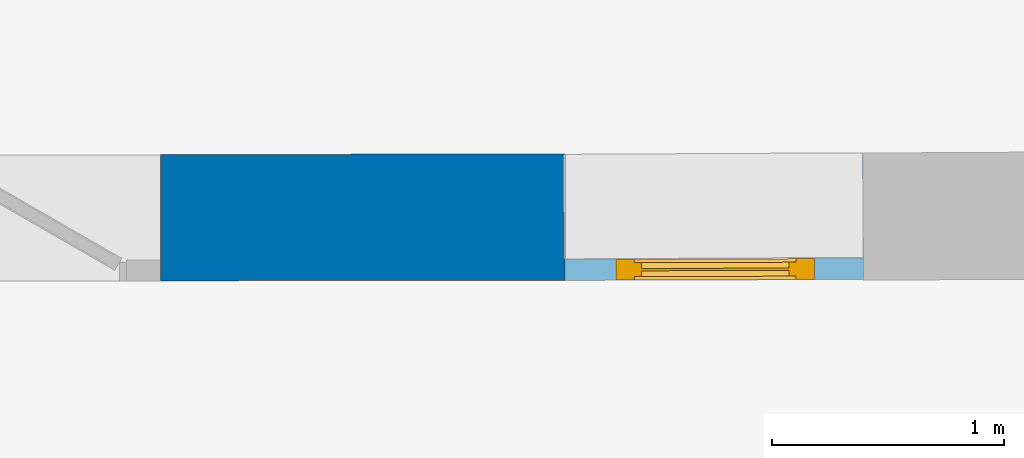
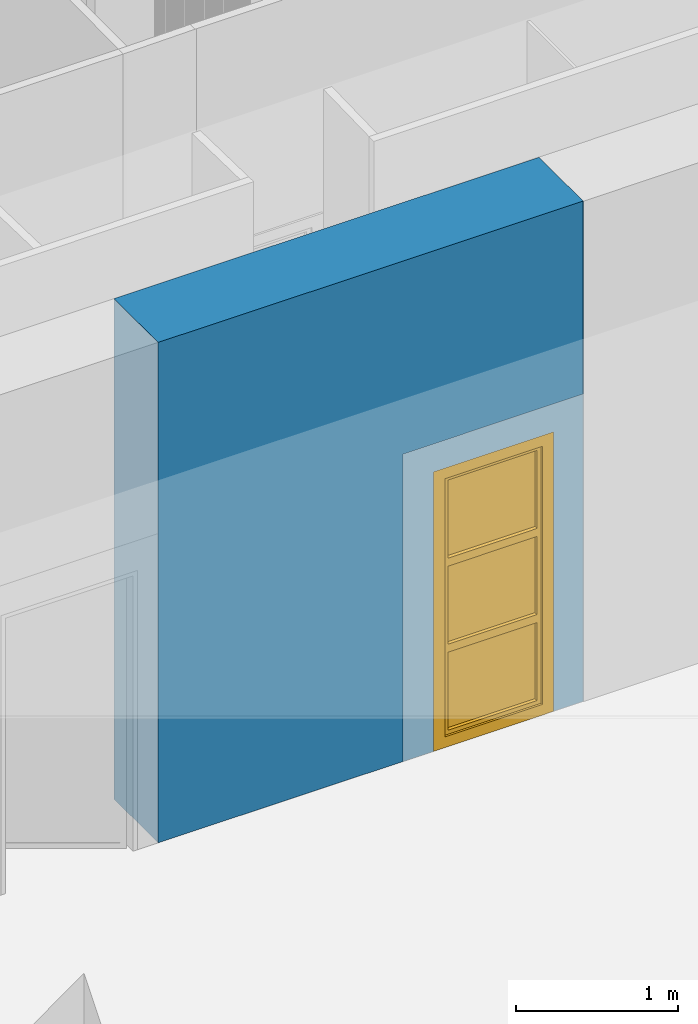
# One storey, part 34 of 66: 1 wall, 1 window, 1 opening, plus 1 element that does not belong to this part.
"""IFC2X3 building model written with IfcOpenShell, lengths in centimetres."""

import ifcopenshell
import ifcopenshell.guid

model = None  # the IFC model being written
_history = None  # IfcOwnerHistory: only IFC2X3 demands one
_inside = {}  # id of a spatial element -> (the spatial element, [elements in it])
_under = {}  # id of a project, library or spatial element -> (it, [spatial elements below it])
_declared = {}  # id of a project -> (the project, [libraries it declares])
_typed = {}  # id of a type object -> (the type object, [elements of that type])
_made_of = {}  # id of a material, layer set ... -> (it, [elements and type objects made of it])


def new_model(schema):
    """Start an empty IFC model of exactly this schema.

    Asked for "IFC4X3", IfcOpenShell would pick the latest addendum, in which some entities
    have other attributes; the version numbers below select the first issue.
    IFC2X3 requires an IfcOwnerHistory on every rooted entity: one is made here for all.
    """
    global model, _history
    if schema == "IFC4X3":
        model = ifcopenshell.file(schema_version=(4, 3, 0, 0))
    else:
        model = ifcopenshell.file(schema=schema)
    _inside.clear()
    _under.clear()
    _declared.clear()
    _typed.clear()
    _made_of.clear()
    _history = None
    if model.schema == "IFC2X3":
        org = make("IfcOrganization", Name="unknown")
        user = make(
            "IfcPersonAndOrganization",
            ThePerson=make("IfcPerson", FamilyName="unknown"),
            TheOrganization=org,
        )
        app = make(
            "IfcApplication",
            ApplicationDeveloper=org,
            Version="unknown",
            ApplicationFullName="unknown",
            ApplicationIdentifier="unknown",
        )
        _history = make(
            "IfcOwnerHistory",
            OwningUser=user,
            OwningApplication=app,
            ChangeAction="ADDED",
            CreationDate=0,
        )
    return model


def make(cls, **values):
    """One entity of the class cls with the attributes given. An attribute that is None is left unset."""
    return model.create_entity(
        cls, **{name: value for name, value in values.items() if value is not None}
    )


def entity(cls, *values):
    """Any entity or typed value of the class cls, its attributes in the order of the schema. None: left unset."""
    e = model.create_entity(cls)
    for i, value in enumerate(values):
        if value is not None:
            e[i] = value
    return e


def rooted(cls, **values):
    """An entity with a GlobalId (a new one), such as an element, a storey or a relation."""
    return make(cls, GlobalId=ifcopenshell.guid.new(), OwnerHistory=_history, **values)


def si_unit(unit_type, name, prefix=None):
    """IfcSIUnit, for example si_unit("LENGTHUNIT", "METRE", prefix="MILLI")."""
    return make("IfcSIUnit", UnitType=unit_type, Prefix=prefix, Name=name)


def converted_unit(unit_type, name, factor, base, dimensions=None, offset=None):
    """IfcConversionBasedUnit, such as the inch: factor (a typed value) times the base unit."""
    return make(
        "IfcConversionBasedUnit"
        if offset is None
        else "IfcConversionBasedUnitWithOffset",
        ConversionOffset=offset,
        Dimensions=None
        if dimensions is None
        else entity("IfcDimensionalExponents", *dimensions),
        UnitType=unit_type,
        Name=name,
        ConversionFactor=make(
            "IfcMeasureWithUnit", ValueComponent=factor, UnitComponent=base
        ),
    )


def assignment(units):
    """IfcUnitAssignment: the units of a project."""
    return None if units is None else make("IfcUnitAssignment", Units=units)


def point(xyz):
    """IfcCartesianPoint."""
    return None if xyz is None else make("IfcCartesianPoint", Coordinates=xyz)


def direction(xyz):
    """IfcDirection."""
    return None if xyz is None else make("IfcDirection", DirectionRatios=xyz)


def frame(location, z_axis=None, x_axis=None):
    """IfcAxis2Placement3D, a coordinate frame: its origin and axes. An axis left out is left unset."""
    return make(
        "IfcAxis2Placement3D",
        Location=point(location),
        Axis=direction(z_axis),
        RefDirection=direction(x_axis),
    )


def origin():
    """The frame at (0, 0, 0) with its axes left unset."""
    return frame((0.0, 0.0, 0.0))


def origin_with_axes():
    """The frame at (0, 0, 0) with the z axis (0, 0, 1) and the x axis (1, 0, 0) written out."""
    return frame((0.0, 0.0, 0.0), z_axis=(0.0, 0.0, 1.0), x_axis=(1.0, 0.0, 0.0))


def place(relative_to, where):
    """IfcLocalPlacement: puts the frame where relative to a parent placement (None: the world)."""
    return make(
        "IfcLocalPlacement", PlacementRelTo=relative_to, RelativePlacement=where
    )


def context(
    kind, dimensions, precision=None, world=None, true_north=None, identifier=None
):
    """IfcGeometricRepresentationContext, for example the 3D "Model" context."""
    return make(
        "IfcGeometricRepresentationContext",
        ContextIdentifier=identifier,
        ContextType=kind,
        CoordinateSpaceDimension=dimensions,
        Precision=precision,
        WorldCoordinateSystem=world,
        TrueNorth=true_north,
    )


def subcontext(parent, identifier, kind, view, scale=None):
    """IfcGeometricRepresentationSubContext, for example "Body" below "Model"."""
    return make(
        "IfcGeometricRepresentationSubContext",
        ContextIdentifier=identifier,
        ContextType=kind,
        ParentContext=parent,
        TargetScale=scale,
        TargetView=view,
    )


def project(units=None, contexts=None):
    """IfcProject with its units and contexts."""
    return rooted(
        "IfcProject",
        Name="project",
        RepresentationContexts=contexts,
        UnitsInContext=assignment(units),
    )


def spatial(cls, under=None, at=None, **own):
    """A site, building, storey or space (cls), placed at a placement, below another one or the project."""
    s = rooted(cls, ObjectPlacement=at, **own)
    if under is not None:
        _under.setdefault(under.id(), (under, []))[1].append(s)
    return s


def polyline(points):
    """IfcPolyline through the points."""
    return make("IfcPolyline", Points=[point(p) for p in points])


def outline(outer, holes=None, kind="AREA"):
    """IfcArbitraryClosedProfileDef: a profile drawn as a closed curve; with holes, ...WithVoids."""
    if holes is None:
        return make("IfcArbitraryClosedProfileDef", ProfileType=kind, OuterCurve=outer)
    return make(
        "IfcArbitraryProfileDefWithVoids",
        ProfileType=kind,
        OuterCurve=outer,
        InnerCurves=holes,
    )


def extrude(swept, where, along, depth):
    """IfcExtrudedAreaSolid: the profile swept, set in the frame where, extruded along a direction by depth."""
    return make(
        "IfcExtrudedAreaSolid",
        SweptArea=swept,
        Position=where,
        ExtrudedDirection=direction(along),
        Depth=depth,
    )


def faces_of(points, faces, orient=None, outer=None):
    """IfcFace entities. A face is a list of loops; a loop is a list of indices into points, from 0.

    orient and outer hold one flag for each loop. By default every Orientation is true, the
    first loop of a face is its IfcFaceOuterBound and the others are IfcFaceBound.
    """
    made = []
    for i, loops in enumerate(faces):
        bounds = []
        for j, loop in enumerate(loops):
            is_outer = j == 0 if outer is None else outer[i][j]
            bounds.append(
                make(
                    "IfcFaceOuterBound" if is_outer else "IfcFaceBound",
                    Bound=make("IfcPolyLoop", Polygon=[points[k] for k in loop]),
                    Orientation=True if orient is None else orient[i][j],
                )
            )
        made.append(make("IfcFace", Bounds=bounds))
    return made


def faceted_brep(points, faces, orient=None, outer=None, voids=None):
    """IfcFacetedBrep: a solid bounded by flat faces; with voids (closed shells), ...WithVoids."""
    shared = [point(p) for p in points]
    hull = make("IfcClosedShell", CfsFaces=faces_of(shared, faces, orient, outer))
    if voids is None:
        return make("IfcFacetedBrep", Outer=hull)
    return make(
        "IfcFacetedBrepWithVoids",
        Outer=hull,
        Voids=[
            make(cls, CfsFaces=faces_of(shared, fs, o, b)) for cls, fs, o, b in voids
        ],
    )


def shape(context_of_items, identifier, shape_type, items):
    """IfcShapeRepresentation: the items that make up one representation, for example the "Body"."""
    return make(
        "IfcShapeRepresentation",
        ContextOfItems=context_of_items,
        RepresentationIdentifier=identifier,
        RepresentationType=shape_type,
        Items=items,
    )


def source(mapping_origin, context_of_items, identifier, shape_type, items):
    """IfcRepresentationMap: a shape defined once, which mapped items show again and again."""
    return make(
        "IfcRepresentationMap",
        MappingOrigin=mapping_origin,
        MappedRepresentation=shape(context_of_items, identifier, shape_type, items),
    )


def transform(
    local_origin,
    x_axis=None,
    y_axis=None,
    z_axis=None,
    scale=None,
    scale2=None,
    scale3=None,
    uniform=True,
):
    """IfcCartesianTransformationOperator3D, or its non-uniform kind. x_axis, y_axis, z_axis: its Axis1, 2, 3."""
    if uniform:
        return make(
            "IfcCartesianTransformationOperator3D",
            Axis1=direction(x_axis),
            Axis2=direction(y_axis),
            LocalOrigin=point(local_origin),
            Scale=scale,
            Axis3=direction(z_axis),
        )
    return make(
        "IfcCartesianTransformationOperator3DnonUniform",
        Axis1=direction(x_axis),
        Axis2=direction(y_axis),
        LocalOrigin=point(local_origin),
        Scale=scale,
        Axis3=direction(z_axis),
        Scale2=scale2,
        Scale3=scale3,
    )


def mapped(mapping_source, mapping_target):
    """IfcMappedItem: shows the shape of a source again, moved by a transform."""
    return make(
        "IfcMappedItem", MappingSource=mapping_source, MappingTarget=mapping_target
    )


def material(Name=None, Category=None):
    """IfcMaterial."""
    return make("IfcMaterial", Name=Name, Category=Category)


def material_list(materials):
    """IfcMaterialList."""
    return make("IfcMaterialList", Materials=materials)


def layer(
    of_material, thickness, ventilated=None, Name=None, Category=None, Priority=None
):
    """IfcMaterialLayer: one layer of a wall or slab, of a material (None: an air gap)."""
    return make(
        "IfcMaterialLayer",
        Material=of_material,
        LayerThickness=thickness,
        IsVentilated=ventilated,
        Name=Name,
        Category=Category,
        Priority=Priority,
    )


def layer_set(layers, Name=None):
    """IfcMaterialLayerSet."""
    return make("IfcMaterialLayerSet", MaterialLayers=layers, LayerSetName=Name)


def layer_usage(for_layer_set, set_direction, sense, offset, extent=None):
    """IfcMaterialLayerSetUsage: how a layer set lies in its element."""
    return make(
        "IfcMaterialLayerSetUsage",
        ForLayerSet=for_layer_set,
        LayerSetDirection=set_direction,
        DirectionSense=sense,
        OffsetFromReferenceLine=offset,
        ReferenceExtent=extent,
    )


def made_of(thing, what):
    """Note that an element or type object is made of a material, layer set ...; save() writes the relation."""
    if what is not None:
        _made_of.setdefault(what.id(), (what, []))[1].append(thing)
    return thing


def type_object(cls, material=None, **own):
    """A type object (cls), such as IfcWallType, which elements share."""
    return made_of(rooted(cls, **own), material)


def element(
    cls,
    number,
    at=None,
    inside=None,
    cuts=None,
    type_object=None,
    material=None,
    context=None,
    identifier="Body",
    shape_type=None,
    held_by="IfcProductDefinitionShape",
    body=None,
    shapes=None,
    **own,
):
    """One element of the class cls, such as IfcWall. Its Tag is "e" and its number.

    at: its placement. inside: the storey or other place that contains it. cuts: it is an
    opening in that element (IfcRelVoidsElement). A single representation is given by context,
    identifier, shape_type and body (its items); several are given by shapes. held_by: the class
    of the entity that holds the representations. save() writes the other relations.
    """
    e = rooted(cls, Tag="e%d" % number, ObjectPlacement=at, **own)
    if body is not None:
        shapes = [shape(context, identifier, shape_type, body)]
    if shapes is not None:
        e.Representation = make(held_by, Representations=shapes)
    if inside is not None:
        _inside.setdefault(inside.id(), (inside, []))[1].append(e)
    if cuts is not None:
        rooted(
            "IfcRelVoidsElement", RelatingBuildingElement=cuts, RelatedOpeningElement=e
        )
    if type_object is not None:
        _typed.setdefault(type_object.id(), (type_object, []))[1].append(e)
    return made_of(e, material)


def fill(opening, filler):
    """IfcRelFillsElement: the door or window that sits in an opening."""
    return rooted(
        "IfcRelFillsElement",
        RelatingOpeningElement=opening,
        RelatedBuildingElement=filler,
    )


def aggregate(whole, parts):
    """IfcRelAggregates: a whole, such as a stair, and the parts it consists of."""
    return rooted("IfcRelAggregates", RelatingObject=whole, RelatedObjects=parts)


def save(model, path):
    """Write the relations noted so far, then the file.

    IfcRelAggregates (storeys below a building ...), IfcRelContainedInSpatialStructure (elements
    in a storey), IfcRelDefinesByType, IfcRelAssociatesMaterial and IfcRelDeclares: one each for
    every whole, place, type object, material and project.
    """
    for whole, parts in _under.values():
        aggregate(whole, parts)
    for where, things in _inside.values():
        rooted(
            "IfcRelContainedInSpatialStructure",
            RelatedElements=things,
            RelatingStructure=where,
        )
    for kind, things in _typed.values():
        rooted("IfcRelDefinesByType", RelatedObjects=things, RelatingType=kind)
    for what, things in _made_of.values():
        rooted("IfcRelAssociatesMaterial", RelatedObjects=things, RelatingMaterial=what)
    for by, libraries in _declared.values():
        rooted("IfcRelDeclares", RelatingContext=by, RelatedDefinitions=libraries)
    model.write(path)


model = new_model("IFC2X3")

# Units and contexts
model_context = context("Model", 3, precision=0.0001, world=origin(), true_north=direction((0.225632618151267, 0.974212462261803, 0.0)))
body_context = subcontext(model_context, "Body", "Model", "MODEL_VIEW")
footprint_context = subcontext(model_context, "FootPrint", "Model", "MODEL_VIEW")
profile_context = subcontext(model_context, "Profile", "Model", "MODEL_VIEW")
ifc_project = project(units=[si_unit("LENGTHUNIT", "METRE", prefix="CENTI"), si_unit("AREAUNIT", "SQUARE_METRE", prefix="CENTI"), si_unit("VOLUMEUNIT", "CUBIC_METRE", prefix="CENTI"), converted_unit("PLANEANGLEUNIT", "DEGREE", entity("IfcRatioMeasure", 0.0174532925), si_unit("PLANEANGLEUNIT", "RADIAN"), dimensions=[0, 0, 0, 0, 0, 0, 0])], contexts=[model_context])

# Site, building, storey
site_placement = place(None, origin_with_axes())
site = spatial("IfcSite", under=ifc_project, at=site_placement, Name="Default Site", CompositionType="ELEMENT")
building_placement = place(site_placement, origin_with_axes())
building = spatial("IfcBuilding", under=site, at=building_placement, Name="Default Building", CompositionType="ELEMENT")
storey_placement = place(building_placement, frame((0.0, 0.0, 477.795358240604), z_axis=(0.0, 0.0, 1.0), x_axis=(1.0, 0.0, 0.0)))
storey = spatial("IfcBuildingStorey", under=building, at=storey_placement, Name="Niveau 1", CompositionType="ELEMENT", Elevation=477.795358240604)

# Wall
ifc_material_1 = material(Name="<aucun>")
ifc_layer_1 = layer(ifc_material_1, 54.0)
ifc_layer_set_1 = layer_set([ifc_layer_1], Name="default")
ifc_layer_usage_1 = layer_usage(ifc_layer_set_1, "AXIS2", "POSITIVE", -27.0)
wall_type_1 = type_object("IfcWallType", Name="default 540", PredefinedType="NOTDEFINED", material=ifc_layer_set_1)
wall_1_placement = place(storey_placement, frame((-449.151488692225, -68.8855963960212, 0.0128503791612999), z_axis=(0.0, 0.0, 1.0), x_axis=(0.999999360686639, 0.0011307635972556, 0.0)))
element("IfcWall", 1, at=wall_1_placement, inside=storey, type_object=wall_type_1, material=ifc_layer_usage_1, Name="Enveloppe 104994", context=body_context, shape_type="Brep", body=[
    faceted_brep([(174.180031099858, 27.4836387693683, -1.92276754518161e-05), (137.595225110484, 27.4836387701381, -1.92276754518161e-05), (137.595225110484, 27.4836387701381, 212.987165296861), (174.180031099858, 27.4836387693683, 212.987165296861), (137.595225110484, 27.4836389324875, -1.92276754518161e-05), (3.31024949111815e-06, 27.3106974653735, -1.92276754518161e-05), (3.31024949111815e-06, 27.3106974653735, 212.987165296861), (137.595225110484, 27.4836389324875, 212.987165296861), (3.31024949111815e-06, 27.3106974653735, 232.487134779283), (137.595225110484, 27.4836389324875, 232.487134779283), (137.595225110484, 27.4836387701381, 232.487134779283), (174.180031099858, 27.4836387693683, 232.487134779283), (174.180031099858, 27.4836387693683, 230.987148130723), (302.337182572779, 27.6648413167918, 230.987148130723), (302.304095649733, 27.8052154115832, 230.987148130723), (302.304095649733, 27.8052154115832, 232.487134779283), (302.304095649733, 27.8052154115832, 233.487157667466), (302.304095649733, 27.8052154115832, 376.102142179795), (302.337182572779, 27.6648413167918, 376.102142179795), (302.337182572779, 27.6648413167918, 233.487157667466), (302.337182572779, 27.6648413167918, 232.487134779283), (302.304709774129, 27.664693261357, 233.487157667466), (302.304088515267, 27.8052149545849, 233.487157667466), (302.304088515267, 27.8052149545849, 232.487134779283), (302.304709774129, 27.664693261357, 232.487134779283), (302.304088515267, 27.8052149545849, 230.987148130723), (302.304709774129, 27.664693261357, 230.987148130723), (302.304709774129, 27.664693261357, 376.102142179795), (302.304088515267, 27.8052149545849, 376.102142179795), (302.405284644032, 27.4836405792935, 230.987148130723), (302.298365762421, 27.4836405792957, 230.987148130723), (302.298365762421, 27.4836405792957, 232.487134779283), (302.405284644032, 27.4836405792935, 232.487134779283), (174.280023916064, 27.483638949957, 230.987148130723), (174.180031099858, 27.4836389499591, 230.987148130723), (174.180031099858, 27.4836389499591, 232.487134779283), (174.280023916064, 27.483638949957, 232.487134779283), (225.204739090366, 27.4836391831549, 232.487134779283), (302.298365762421, 27.4836391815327, 232.487134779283), (302.298365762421, 27.4836391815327, 230.987148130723), (225.204739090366, 27.4836391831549, 230.987148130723), (174.280023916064, 27.4836391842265, 230.987148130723), (174.280023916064, 27.4836391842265, 232.487134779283), (3.31024949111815e-06, 27.3106974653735, 376.102142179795), (137.595225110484, 27.4836389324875, 376.102142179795), (225.204739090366, 27.4836391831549, 376.102142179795), (302.405284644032, 27.4836391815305, 376.102142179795), (302.405284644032, 27.4836391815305, 233.487157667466), (225.204739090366, 27.4836391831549, 233.487157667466), (302.405284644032, 27.4836391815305, 232.487134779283), (174.180031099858, 27.4836391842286, 232.487134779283), (137.595225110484, 27.4836391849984, 232.487134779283), (137.595225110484, 27.4836391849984, 376.102142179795), (7.37438297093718e-06, -27.0000016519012, -1.92276754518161e-05), (174.180030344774, -27.0000016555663, -1.92276754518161e-05), (174.180030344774, -27.0000016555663, 212.987165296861), (173.970794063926, -27.0000016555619, 212.987165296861), (7.37438297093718e-06, -27.0000016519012, 212.987165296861), (173.970794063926, -27.0000016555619, 232.487134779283), (7.37438297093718e-06, -27.0000016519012, 232.487134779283), (173.970794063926, -27.0000023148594, 212.987165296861), (174.180030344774, -27.0000023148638, 212.987165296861), (174.180030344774, -27.0000023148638, 230.987148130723), (174.180030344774, -27.0000023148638, 232.487134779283), (173.970794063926, -27.0000023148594, 232.487134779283), (302.304709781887, 27.6646915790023, 232.487134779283), (302.304709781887, 27.6646915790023, 230.987148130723), (302.304709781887, 27.6646915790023, 233.487157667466), (302.304709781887, 27.6646915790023, 376.102142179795), (174.180030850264, -26.9995534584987, 230.987148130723), (174.242210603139, -26.9994201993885, 230.987148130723), (174.268508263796, -26.9993638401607, 230.987148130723), (174.268508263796, -26.9993638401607, 232.487134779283), (174.180030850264, -26.9995534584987, 232.487134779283), (174.268508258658, -26.9993614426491, 230.987148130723), (302.464913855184, -26.7246202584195, 230.987148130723), (302.464913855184, -26.7246202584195, 232.487134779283), (174.268508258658, -26.9993614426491, 232.487134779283), (302.464913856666, -26.7246209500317, 230.987148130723), (302.494525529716, -26.7245574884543, 230.987148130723), (302.494525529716, -26.7245574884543, 232.487134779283), (302.464913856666, -26.7246209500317, 232.487134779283), (302.494525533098, -26.7245590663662, 230.987148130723), (302.495269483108, -26.9999991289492, 230.987148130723), (302.495269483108, -26.9999991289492, 232.487134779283), (302.494525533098, -26.7245590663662, 232.487134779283), (302.495275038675, -26.9999991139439, 230.987148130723), (302.575252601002, -26.9999991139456, 230.987148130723), (302.575252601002, -26.9999991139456, 232.487134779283), (302.495275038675, -26.9999991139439, 232.487134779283), (173.970794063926, -27.0000016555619, 376.102142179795), (7.37438297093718e-06, -27.0000016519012, 376.102142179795), (174.180030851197, -26.9995538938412, 232.487134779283), (174.268508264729, -26.9993642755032, 232.487134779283), (302.464913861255, -26.7246230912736, 232.487134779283), (302.494525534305, -26.7245596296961, 232.487134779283), (302.494525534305, -26.7245596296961, 376.102142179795), (173.970794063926, -27.0000023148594, 376.102142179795), (302.495269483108, -26.9999991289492, 233.487157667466), (302.495269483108, -26.9999991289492, 376.102142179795), (302.494525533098, -26.7245590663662, 376.102142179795), (302.575252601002, -27.0000001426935, 376.102142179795), (302.495275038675, -27.0000001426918, 376.102142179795), (302.495275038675, -27.0000001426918, 233.487157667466), (302.575252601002, -27.0000001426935, 233.487157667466), (302.495275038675, -27.0000001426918, 232.487134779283), (302.575252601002, -27.0000001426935, 232.487134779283), (174.180030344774, -27.0000004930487, -1.92276754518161e-05), (-2.00648691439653e-05, -17.999998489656, -1.92276754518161e-05), (3.310069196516e-06, 27.310697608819, -1.92276754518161e-05), (7.37457234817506e-06, -17.999998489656, 212.987165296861), (7.37457234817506e-06, -17.999998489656, -1.92276754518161e-05), (174.18003034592, 27.4836387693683, -1.92276754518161e-05), (174.18003034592, 27.4836387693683, 212.987165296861), (174.180030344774, -27.0000004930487, 212.987165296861), (-2.00648691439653e-05, -17.999998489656, 212.987165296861), (-2.00639157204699e-05, 27.310697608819, 212.987165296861), (-2.00639157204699e-05, 27.310697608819, -1.92276754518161e-05), (7.37457234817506e-06, -17.999998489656, 232.487134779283), (174.18003034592, 27.4836387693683, 230.987148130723), (174.180030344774, -27.0000004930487, 230.987148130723), (-2.00648691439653e-05, -17.999998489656, 232.487134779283), (-2.00639168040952e-05, 27.2591991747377, 232.487134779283), (-2.00639157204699e-05, 27.310697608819, 232.487134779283), (302.304093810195, 27.8052149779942, 230.987148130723), (302.304093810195, 27.8052149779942, 376.102142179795), (174.280019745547, -17.9998362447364, 230.987148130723), (302.439399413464, -17.7246545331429, 230.987148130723), (302.298365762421, 27.4836392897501, 230.987148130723), (302.575252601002, -27.0000001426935, 230.987148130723), (302.405281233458, 27.4836405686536, 230.987148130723), (302.405281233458, 27.4836405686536, 232.487134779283), (3.310069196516e-06, 27.310697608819, 376.102142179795), (-7.23877624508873e-06, 27.2591991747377, 376.102142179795), (-2.00648691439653e-05, -17.999998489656, 376.102142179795), (302.495275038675, -26.9999991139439, 376.102142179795), (302.405284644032, 27.4836405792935, 376.102142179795), (-2.00639168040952e-05, 27.2591991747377, 376.102142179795), (302.575256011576, -27.0000001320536, 376.102142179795), (302.575256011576, -27.0000001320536, 233.487157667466), (302.405284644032, 27.4836405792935, 233.487157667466), (7.37457234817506e-06, -17.999998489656, 376.102142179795), (-7.23877516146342e-06, 27.310697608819, 376.102142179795), (-7.23877516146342e-06, 27.310697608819, 232.487134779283), (-7.23877624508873e-06, 27.2591991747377, 232.487134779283), (302.575256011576, -27.0000001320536, 232.487134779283)], [[[0, 1, 2, 3]], [[4, 5, 6, 7]], [[7, 6, 8, 9]], [[3, 2, 10, 11, 12]], [[13, 14, 15, 16, 17, 18, 19, 20]], [[21, 22, 23, 24]], [[24, 23, 25, 26]], [[27, 28, 22, 21]], [[29, 30, 31, 32]], [[33, 34, 35, 36]], [[37, 38, 39, 40]], [[40, 41, 42, 37]], [[9, 8, 43, 44]], [[45, 46, 47, 48]], [[48, 47, 49, 37]], [[37, 42, 50, 51, 52, 45, 48]], [[53, 54, 55, 56, 57]], [[57, 56, 58, 59]], [[60, 61, 62, 63, 64]], [[20, 65, 66, 13]], [[19, 67, 65, 20]], [[18, 68, 67, 19]], [[69, 70, 71, 72, 73]], [[74, 75, 76, 77]], [[78, 79, 80, 81]], [[82, 83, 84, 85]], [[86, 87, 88, 89]], [[59, 58, 90, 91]], [[64, 92, 93, 94, 95, 96, 97]], [[85, 84, 98, 99, 100]], [[101, 102, 103, 104]], [[104, 103, 105, 106]], [[107, 53, 108, 109, 4, 0]], [[57, 110, 111, 53]], [[107, 112, 113, 114]], [[115, 116, 117, 108]], [[59, 118, 110, 57]], [[114, 113, 119, 120]], [[121, 122, 123, 116, 115]], [[124, 13, 26]], [[27, 18, 125]], [[86, 82, 78, 74, 69, 12, 33, 126, 127, 128, 29, 129]], [[129, 130, 131, 106]], [[40, 128, 127, 126, 33]], [[44, 132, 133, 134, 91, 97, 100, 135, 101, 136, 45]], [[134, 137, 122, 121]], [[136, 138, 139, 140]], [[91, 141, 118, 59]], [[133, 142, 143, 144]], [[140, 139, 145, 32]]]),
])

# Wall, opening, window
ifc_layer_2 = layer(ifc_material_1, 9.0)
ifc_layer_set_2 = layer_set([ifc_layer_2], Name="default")
ifc_layer_usage_2 = layer_usage(ifc_layer_set_2, "AXIS2", "POSITIVE", -4.5)
wall_type_2 = type_object("IfcWallType", Name="default 90", PredefinedType="NOTDEFINED", material=ifc_layer_set_2)
wall_2_placement = place(storey_placement, frame((-274.921767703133, -91.1886084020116, 0.0128503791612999), z_axis=(0.0, 0.0, 1.0), x_axis=(0.999994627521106, 0.00327794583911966, 0.0)))
wall_2 = element("IfcWallStandardCase", 2, at=wall_2_placement, inside=storey, type_object=wall_type_2, material=ifc_layer_usage_2, Name="Enveloppe 104933", context=body_context, shape_type="SweptSolid", body=[
    extrude(outline(polyline([(0.0829575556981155, 49.9835869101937), (-0.0340282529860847, -4.49970996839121), (128.251153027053, -4.49990290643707), (128.251314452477, -4.78886104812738), (128.360917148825, -4.78922032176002), (128.307742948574, 49.8897780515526), (128.200828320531, 49.8895146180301), (128.244968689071, 4.50000000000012), (0.0852958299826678, 4.5), (0.18295732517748, 49.9833721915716), (0.0829575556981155, 49.9835869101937)])), frame((0.0, 0.0, -4.44089209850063e-13), z_axis=(0.0, 0.0, 1.0), x_axis=(1.0, 0.0, 0.0)), (0.0, 0.0, 1.0), 230.987149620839),
])
opening_placement = place(wall_2_placement, frame((21.7648275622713, 1.4210854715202e-14, 0.0), z_axis=(0.0, 0.0, 1.0), x_axis=(-1.0, -7.55905754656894e-16, 0.0)))
cartesian_point_1 = entity("IfcCartesianPoint", [0.0, 0.0, 210.0])
cartesian_point_2 = entity("IfcCartesianPoint", [-85.5625698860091, -4.5])
opening = element("IfcOpeningElement", 3, at=opening_placement, cuts=wall_2, Name="4294966429_11", ObjectType="Opening", shapes=[
    shape(body_context, "Body", "SweptSolid", [extrude(outline(polyline([(0.0, 210.0), (0.0, 0.0), (85.5625698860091, 0.0), (85.5625698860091, 210.0), (0.0, 210.0)])), frame((0.0, -14.5, 0.0), z_axis=(0.0, 1.0, 0.0), x_axis=(-1.0, 0.0, 0.0)), (0.0, 0.0, 1.0), 29.0)]),
    shape(profile_context, "Profile", "GeometricCurveSet", [entity("IfcGeometricCurveSet", [entity("IfcPolyline", [cartesian_point_1, entity("IfcCartesianPoint", [0.0, 0.0, 0.0]), entity("IfcCartesianPoint", [-85.5625698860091, 0.0, 0.0]), entity("IfcCartesianPoint", [-85.5625698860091, 0.0, 210.0]), cartesian_point_1])])]),
    shape(footprint_context, "FootPrint", "GeometricCurveSet", [entity("IfcGeometricCurveSet", [entity("IfcPolyline", [cartesian_point_2, entity("IfcCartesianPoint", [0.0, -4.5]), entity("IfcCartesianPoint", [-4.44089209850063e-14, 4.49999999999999]), entity("IfcCartesianPoint", [-85.5625698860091, 4.49999999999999]), cartesian_point_2])])]),
])
ifc_material_2 = material(Name="Bleu france")
ifc_material_3 = material(Name="Transparent")
ifc_material_list = material_list([ifc_material_2, ifc_material_3])
window_style = type_object("IfcWindowStyle", Name="Fn 1 montant fixe 2 vitres ép 90", ConstructionType="NOTDEFINED", OperationType="TRIPLE_PANEL_HORIZONTAL", ParameterTakesPrecedence=True, Sizeable=False, material=ifc_material_list)
shared_shape = source(origin_with_axes(), body_context, "Body", "Brep", [
    faceted_brep([(-34.7812861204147, 201.999998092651, -4.50000017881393), (-34.7812861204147, 201.999998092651, 4.50000017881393), (-34.7812861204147, 7.99999982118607, 4.50000017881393), (-34.7812861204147, 7.99999982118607, -4.50000017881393), (-42.7812844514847, 209.999990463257, 4.50000017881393), (-42.7812844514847, 0.0, 4.50000017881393), (-42.7812844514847, 209.999990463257, -4.50000017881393), (-42.7812844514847, 5.86950080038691e-31, -4.50000017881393), (-42.7812844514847, 5.86950080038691e-31, 4.50000017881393), (-42.7812844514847, 0.0, -4.50000017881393), (34.7812861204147, 7.99999982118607, 4.50000017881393), (34.7812861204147, 7.99999982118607, -4.50000017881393), (42.7812844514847, 0.0, 4.50000017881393), (42.7812844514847, 0.0, -4.50000017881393), (34.7812861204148, 201.999998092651, 4.50000017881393), (34.7812861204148, 201.999998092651, -4.50000017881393), (42.7812844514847, 209.999990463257, 4.50000017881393), (34.7812861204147, 201.999998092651, 4.50000017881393), (42.7812844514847, 209.999990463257, -4.50000017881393), (34.7812861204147, 201.999998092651, -4.50000017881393)], [[[0, 1, 2, 3]], [[1, 4, 5, 2]], [[4, 6, 7, 8]], [[6, 0, 3, 9]], [[3, 2, 10, 11]], [[2, 5, 12, 10]], [[5, 9, 13, 12]], [[9, 3, 11, 13]], [[11, 10, 14, 15]], [[10, 12, 16, 17]], [[12, 13, 18, 16]], [[13, 11, 19, 18]], [[19, 17, 1, 0]], [[17, 16, 4, 1]], [[16, 18, 6, 4]], [[18, 19, 0, 6]]]),
    faceted_brep([(-31.7812860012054, 199.000000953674, -2.99999993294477), (-31.7812860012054, 199.000000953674, 2.99999993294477), (-31.7812860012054, 140.333330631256, 2.99999993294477), (-31.7812860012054, 140.333330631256, -2.99999993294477), (-34.7812861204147, 201.999998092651, 2.99999993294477), (-34.7812861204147, 137.333333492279, 2.99999993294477), (-34.7812861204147, 201.999998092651, -2.99999993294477), (-34.7812861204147, 137.333333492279, -2.99999993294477), (31.7812860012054, 140.333330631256, 2.99999993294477), (31.7812860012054, 140.333330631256, -2.99999993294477), (34.7812861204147, 137.333333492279, 2.99999993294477), (34.7812861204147, 137.333333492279, -2.99999993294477), (31.7812860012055, 199.000000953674, 2.99999993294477), (31.7812860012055, 199.000000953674, -2.99999993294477), (34.7812861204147, 201.999998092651, 2.99999993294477), (31.7812860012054, 199.000000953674, 2.99999993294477), (34.7812861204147, 201.999998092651, -2.99999993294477), (31.7812860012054, 199.000000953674, -2.99999993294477)], [[[0, 1, 2, 3]], [[1, 4, 5, 2]], [[4, 6, 7, 5]], [[6, 0, 3, 7]], [[3, 2, 8, 9]], [[2, 5, 10, 8]], [[5, 7, 11, 10]], [[7, 3, 9, 11]], [[9, 8, 12, 13]], [[8, 10, 14, 15]], [[10, 11, 16, 14]], [[11, 9, 17, 16]], [[17, 15, 1, 0]], [[15, 14, 4, 1]], [[14, 16, 6, 4]], [[16, 17, 0, 6]]]),
    faceted_brep([(31.7812860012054, 199.000000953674, -0.499999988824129), (31.7812860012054, 140.333330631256, -0.499999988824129), (-31.7812860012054, 140.333330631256, -0.499999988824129), (-31.7812860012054, 199.000000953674, -0.499999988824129), (-31.7812860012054, 199.000000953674, 0.499999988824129), (-31.7812860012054, 140.333330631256, 0.499999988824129), (31.7812860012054, 140.333330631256, 0.499999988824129), (31.7812860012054, 199.000000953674, 0.499999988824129), (31.7812860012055, 199.000000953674, -0.499999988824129), (31.7812860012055, 199.000000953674, 0.499999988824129)], [[[0, 1, 2, 3]], [[4, 5, 6, 7]], [[3, 2, 5, 4]], [[2, 1, 6, 5]], [[1, 8, 9, 6]], [[0, 3, 4, 7]]]),
    faceted_brep([(-31.7812860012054, 134.333336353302, -2.99999993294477), (-31.7812860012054, 134.333336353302, 2.99999993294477), (-31.7812860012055, 75.6666660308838, 2.99999993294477), (-31.7812860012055, 75.6666660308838, -2.99999993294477), (-34.7812861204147, 137.333333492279, 2.99999993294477), (-34.7812861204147, 72.6666688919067, 2.99999993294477), (-31.7812860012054, 75.6666660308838, 2.99999993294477), (-34.7812861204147, 137.333333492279, -2.99999993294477), (-34.7812861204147, 72.6666688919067, -2.99999993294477), (-31.7812860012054, 75.6666660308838, -2.99999993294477), (31.7812860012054, 75.6666660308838, 2.99999993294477), (31.7812860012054, 75.6666660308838, -2.99999993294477), (34.7812861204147, 72.6666688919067, 2.99999993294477), (34.7812861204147, 72.6666688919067, -2.99999993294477), (31.7812860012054, 134.333336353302, 2.99999993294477), (31.7812860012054, 134.333336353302, -2.99999993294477), (34.7812861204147, 137.333333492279, 2.99999993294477), (34.7812861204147, 137.333333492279, -2.99999993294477)], [[[0, 1, 2, 3]], [[1, 4, 5, 6]], [[4, 7, 8, 5]], [[7, 0, 9, 8]], [[9, 6, 10, 11]], [[6, 5, 12, 10]], [[5, 8, 13, 12]], [[8, 9, 11, 13]], [[11, 10, 14, 15]], [[10, 12, 16, 14]], [[12, 13, 17, 16]], [[13, 11, 15, 17]], [[15, 14, 1, 0]], [[14, 16, 4, 1]], [[16, 17, 7, 4]], [[17, 15, 0, 7]]]),
    faceted_brep([(31.7812860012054, 134.333336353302, -0.499999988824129), (31.7812860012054, 75.6666660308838, -0.499999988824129), (-31.7812860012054, 75.6666660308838, -0.499999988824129), (-31.7812860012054, 134.333336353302, -0.499999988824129), (-31.7812860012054, 134.333336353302, 0.499999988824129), (-31.7812860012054, 75.6666660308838, 0.499999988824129), (31.7812860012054, 75.6666660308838, 0.499999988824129), (31.7812860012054, 134.333336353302, 0.499999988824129), (-31.7812860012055, 75.6666660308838, -0.499999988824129), (-31.7812860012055, 75.6666660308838, 0.499999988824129)], [[[0, 1, 2, 3]], [[4, 5, 6, 7]], [[3, 8, 9, 4]], [[2, 1, 6, 5]], [[1, 0, 7, 6]], [[0, 3, 4, 7]]]),
    faceted_brep([(-31.7812860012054, 69.6666657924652, -2.99999993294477), (-31.7812860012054, 69.6666657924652, 2.99999993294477), (-31.7812860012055, 10.9999999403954, 2.99999993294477), (-31.7812860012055, 10.9999999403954, -2.99999993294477), (-34.7812861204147, 72.6666688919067, 2.99999993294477), (-34.7812861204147, 7.99999982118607, 2.99999993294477), (-31.7812860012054, 10.9999999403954, 2.99999993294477), (-34.7812861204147, 72.6666688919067, -2.99999993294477), (-34.7812861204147, 7.99999982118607, -2.99999993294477), (-31.7812860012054, 10.9999999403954, -2.99999993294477), (31.7812860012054, 10.9999999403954, 2.99999993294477), (31.7812860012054, 10.9999999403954, -2.99999993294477), (34.7812861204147, 7.99999982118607, 2.99999993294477), (34.7812861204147, 7.99999982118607, -2.99999993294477), (31.7812860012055, 69.6666657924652, 2.99999993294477), (31.7812860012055, 69.6666657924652, -2.99999993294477), (34.7812861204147, 72.6666688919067, 2.99999993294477), (31.7812860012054, 69.6666657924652, 2.99999993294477), (34.7812861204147, 72.6666688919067, -2.99999993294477), (31.7812860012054, 69.6666657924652, -2.99999993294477)], [[[0, 1, 2, 3]], [[1, 4, 5, 6]], [[4, 7, 8, 5]], [[7, 0, 9, 8]], [[9, 6, 10, 11]], [[6, 5, 12, 10]], [[5, 8, 13, 12]], [[8, 9, 11, 13]], [[11, 10, 14, 15]], [[10, 12, 16, 17]], [[12, 13, 18, 16]], [[13, 11, 19, 18]], [[19, 17, 1, 0]], [[17, 16, 4, 1]], [[16, 18, 7, 4]], [[18, 19, 0, 7]]]),
    faceted_brep([(31.7812860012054, 69.6666657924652, -0.499999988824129), (31.7812860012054, 10.9999999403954, -0.499999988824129), (-31.7812860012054, 10.9999999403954, -0.499999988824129), (-31.7812860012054, 69.6666657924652, -0.499999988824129), (-31.7812860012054, 69.6666657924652, 0.499999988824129), (-31.7812860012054, 10.9999999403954, 0.499999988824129), (31.7812860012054, 10.9999999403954, 0.499999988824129), (31.7812860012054, 69.6666657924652, 0.499999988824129), (31.7812860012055, 69.6666657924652, -0.499999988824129), (31.7812860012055, 69.6666657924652, 0.499999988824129)], [[[0, 1, 2, 3]], [[4, 5, 6, 7]], [[3, 2, 5, 4]], [[2, 1, 6, 5]], [[1, 8, 9, 6]], [[0, 3, 4, 7]]]),
])
window_placement = place(opening_placement, frame((-85.5625698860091, -4.50000000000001, -8.88178419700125e-16), z_axis=(0.0, 0.0, 1.0), x_axis=(1.0, 0.0, 0.0)))
window = element("IfcWindow", 4, at=window_placement, inside=storey, type_object=window_style, material=ifc_material_list, Name="Fenêtre 105267", OverallHeight=210.0, OverallWidth=85.5625698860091, context=body_context, shape_type="MappedRepresentation", body=[
    mapped(shared_shape, transform((42.7812849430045, 4.49999999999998, 0.0), x_axis=(-1.0, 0.0, 0.0), y_axis=(0.0, 0.0, 1.0), z_axis=(0.0, 1.0, 0.0), scale=1.0, scale2=1.0, scale3=1.0, uniform=False)),
])
fill(opening, window)

save(model, "model.ifc")
